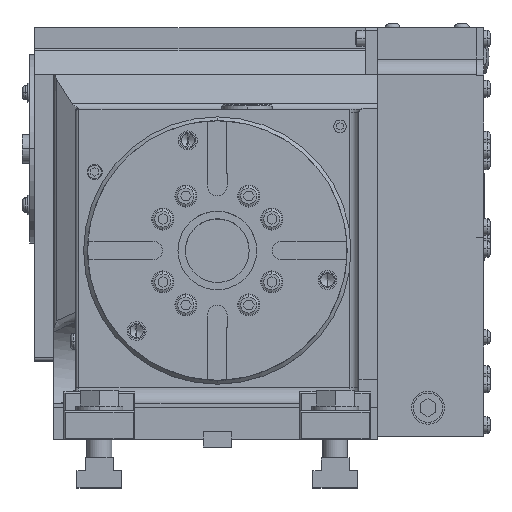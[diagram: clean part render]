
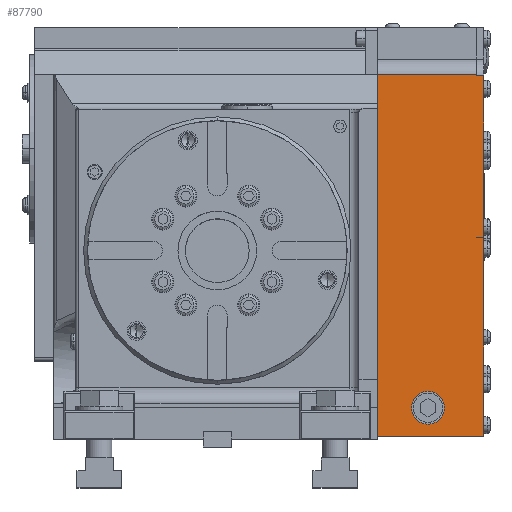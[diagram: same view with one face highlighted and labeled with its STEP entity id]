
A CAD part, top view. The second image highlights one B-rep face of the part: STEP entity #87790.
In plain terms, the highlighted planar face has unit normal (0, 0, 1) as drawn and (-1, 0, 0) by its records, which use the part's own axes.
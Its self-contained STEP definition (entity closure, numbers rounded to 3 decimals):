
#147 = LINE ( 'NONE', #17596, #16032 ) ;
#2165 = FACE_OUTER_BOUND ( 'NONE', #36793, .T. ) ;
#2208 = ORIENTED_EDGE ( 'NONE', *, *, #73221, .T. ) ;
#3108 = CARTESIAN_POINT ( 'NONE',  ( 0., 18., 32. ) ) ;
#3832 = DIRECTION ( 'NONE',  ( 1., 0., 0. ) ) ;
#4249 = CARTESIAN_POINT ( 'NONE',  ( 0., 0., 0. ) ) ;
#5008 = LINE ( 'NONE', #49844, #75158 ) ;
#6155 = ORIENTED_EDGE ( 'NONE', *, *, #87880, .F. ) ;
#6276 = CARTESIAN_POINT ( 'NONE',  ( 0., 230., 0. ) ) ;
#6380 = EDGE_CURVE ( 'NONE', #27618, #46187, #64867, .T. ) ;
#6475 = VERTEX_POINT ( 'NONE', #37897 ) ;
#8993 = VECTOR ( 'NONE', #83866, 1000. ) ;
#9163 = DIRECTION ( 'NONE',  ( 0., -1., 0. ) ) ;
#9685 = CARTESIAN_POINT ( 'NONE',  ( 0., 229., 67.5 ) ) ;
#9698 = VERTEX_POINT ( 'NONE', #67804 ) ;
#9924 = DIRECTION ( 'NONE',  ( 0., -1., 0. ) ) ;
#10276 = VERTEX_POINT ( 'NONE', #4249 ) ;
#11551 = VERTEX_POINT ( 'NONE', #53192 ) ;
#12233 = VERTEX_POINT ( 'NONE', #81304 ) ;
#12275 = VECTOR ( 'NONE', #32875, 1000. ) ;
#13451 = CARTESIAN_POINT ( 'NONE',  ( 0., 126., 67.5 ) ) ;
#14517 = CARTESIAN_POINT ( 'NONE',  ( 0., 18., 32. ) ) ;
#16032 = VECTOR ( 'NONE', #71959, 1000. ) ;
#17596 = CARTESIAN_POINT ( 'NONE',  ( 0., 126.5, 67.5 ) ) ;
#18076 = LINE ( 'NONE', #24873, #49924 ) ;
#18148 = CARTESIAN_POINT ( 'NONE',  ( 0., 28.477, 32. ) ) ;
#19598 = EDGE_CURVE ( 'NONE', #27618, #11551, #47136, .T. ) ;
#21331 = DIRECTION ( 'NONE',  ( 0., -1., 0. ) ) ;
#22314 = FACE_BOUND ( 'NONE', #81504, .T. ) ;
#24477 = CARTESIAN_POINT ( 'NONE',  ( 0., 230., 63. ) ) ;
#24873 = CARTESIAN_POINT ( 'NONE',  ( 0., 126., 67.5 ) ) ;
#27618 = VERTEX_POINT ( 'NONE', #28244 ) ;
#28149 = VERTEX_POINT ( 'NONE', #13451 ) ;
#28244 = CARTESIAN_POINT ( 'NONE',  ( 0., 229., 67.5 ) ) ;
#29045 = VECTOR ( 'NONE', #50348, 1000. ) ;
#29462 = EDGE_CURVE ( 'NONE', #28149, #57299, #45165, .T. ) ;
#29466 = VECTOR ( 'NONE', #31305, 1000. ) ;
#30333 = CIRCLE ( 'NONE', #46934, 10.478 ) ;
#31305 = DIRECTION ( 'NONE',  ( 0., 0., -1. ) ) ;
#31712 = DIRECTION ( 'NONE',  ( 0., -1., 0. ) ) ;
#31916 = CARTESIAN_POINT ( 'NONE',  ( 0., 229., 63. ) ) ;
#32602 = EDGE_CURVE ( 'NONE', #12233, #57299, #64346, .T. ) ;
#32875 = DIRECTION ( 'NONE',  ( 0., -1., 0. ) ) ;
#32902 = VECTOR ( 'NONE', #43692, 1000. ) ;
#33950 = ORIENTED_EDGE ( 'NONE', *, *, #35446, .F. ) ;
#35027 = LINE ( 'NONE', #36832, #32902 ) ;
#35446 = EDGE_CURVE ( 'NONE', #11551, #12233, #147, .T. ) ;
#35940 = EDGE_CURVE ( 'NONE', #84533, #10276, #35027, .T. ) ;
#36681 = CARTESIAN_POINT ( 'NONE',  ( 0., 230., 0. ) ) ;
#36793 = EDGE_LOOP ( 'NONE', ( #62077, #54211, #6155, #48868, #73653, #33950, #86447, #67040, #39265, #2208 ) ) ;
#36832 = CARTESIAN_POINT ( 'NONE',  ( 0., 0., 63. ) ) ;
#37897 = CARTESIAN_POINT ( 'NONE',  ( 0., 7.522, 32. ) ) ;
#39265 = ORIENTED_EDGE ( 'NONE', *, *, #45378, .F. ) ;
#40141 = DIRECTION ( 'NONE',  ( 0., -1., 0. ) ) ;
#40210 = AXIS2_PLACEMENT_3D ( 'NONE', #3108, #50598, #9924 ) ;
#42417 = VERTEX_POINT ( 'NONE', #18148 ) ;
#43692 = DIRECTION ( 'NONE',  ( 0., 0., -1. ) ) ;
#44510 = PLANE ( 'NONE',  #52257 ) ;
#45165 = LINE ( 'NONE', #77073, #8993 ) ;
#45378 = EDGE_CURVE ( 'NONE', #9698, #46187, #5008, .T. ) ;
#46187 = VERTEX_POINT ( 'NONE', #31916 ) ;
#46783 = VECTOR ( 'NONE', #57166, 1000. ) ;
#46934 = AXIS2_PLACEMENT_3D ( 'NONE', #14517, #62038, #21331 ) ;
#47136 = LINE ( 'NONE', #57156, #29045 ) ;
#47409 = ORIENTED_EDGE ( 'NONE', *, *, #71385, .F. ) ;
#47565 = LINE ( 'NONE', #24477, #29466 ) ;
#48868 = ORIENTED_EDGE ( 'NONE', *, *, #29462, .T. ) ;
#49844 = CARTESIAN_POINT ( 'NONE',  ( 0., 230., 63. ) ) ;
#49924 = VECTOR ( 'NONE', #31712, 1000. ) ;
#50348 = DIRECTION ( 'NONE',  ( 0., -1., 0. ) ) ;
#50401 = VERTEX_POINT ( 'NONE', #36681 ) ;
#50598 = DIRECTION ( 'NONE',  ( -1., 0., 0. ) ) ;
#51050 = LINE ( 'NONE', #6276, #85068 ) ;
#51113 = CIRCLE ( 'NONE', #40210, 10.478 ) ;
#51314 = DIRECTION ( 'NONE',  ( 0., 1., 0. ) ) ;
#52257 = AXIS2_PLACEMENT_3D ( 'NONE', #85197, #3832, #51314 ) ;
#53192 = CARTESIAN_POINT ( 'NONE',  ( 0., 126.5, 67.5 ) ) ;
#54211 = ORIENTED_EDGE ( 'NONE', *, *, #35940, .F. ) ;
#57156 = CARTESIAN_POINT ( 'NONE',  ( 0., 229., 67.5 ) ) ;
#57166 = DIRECTION ( 'NONE',  ( 0., 0., -1. ) ) ;
#57299 = VERTEX_POINT ( 'NONE', #64478 ) ;
#57804 = CARTESIAN_POINT ( 'NONE',  ( 0., 0., 67.5 ) ) ;
#62038 = DIRECTION ( 'NONE',  ( -1., 0., 0. ) ) ;
#62077 = ORIENTED_EDGE ( 'NONE', *, *, #63662, .T. ) ;
#63662 = EDGE_CURVE ( 'NONE', #50401, #10276, #51050, .T. ) ;
#64346 = LINE ( 'NONE', #73581, #12275 ) ;
#64478 = CARTESIAN_POINT ( 'NONE',  ( 0., 126., 63. ) ) ;
#64867 = LINE ( 'NONE', #9685, #46783 ) ;
#66138 = ORIENTED_EDGE ( 'NONE', *, *, #78131, .F. ) ;
#67040 = ORIENTED_EDGE ( 'NONE', *, *, #6380, .T. ) ;
#67804 = CARTESIAN_POINT ( 'NONE',  ( 0., 230., 63. ) ) ;
#71385 = EDGE_CURVE ( 'NONE', #6475, #42417, #51113, .T. ) ;
#71959 = DIRECTION ( 'NONE',  ( 0., 0., -1. ) ) ;
#73221 = EDGE_CURVE ( 'NONE', #9698, #50401, #47565, .T. ) ;
#73581 = CARTESIAN_POINT ( 'NONE',  ( 0., 230., 63. ) ) ;
#73653 = ORIENTED_EDGE ( 'NONE', *, *, #32602, .F. ) ;
#75158 = VECTOR ( 'NONE', #9163, 1000. ) ;
#77073 = CARTESIAN_POINT ( 'NONE',  ( 0., 126., 67.5 ) ) ;
#78131 = EDGE_CURVE ( 'NONE', #42417, #6475, #30333, .T. ) ;
#81304 = CARTESIAN_POINT ( 'NONE',  ( 0., 126.5, 63. ) ) ;
#81504 = EDGE_LOOP ( 'NONE', ( #47409, #66138 ) ) ;
#83866 = DIRECTION ( 'NONE',  ( 0., 0., -1. ) ) ;
#84533 = VERTEX_POINT ( 'NONE', #57804 ) ;
#85068 = VECTOR ( 'NONE', #40141, 1000. ) ;
#85197 = CARTESIAN_POINT ( 'NONE',  ( 0., 230., 63. ) ) ;
#86447 = ORIENTED_EDGE ( 'NONE', *, *, #19598, .F. ) ;
#87790 = ADVANCED_FACE ( 'NONE', ( #22314, #2165 ), #44510, .F. ) ;
#87880 = EDGE_CURVE ( 'NONE', #28149, #84533, #18076, .T. ) ;
